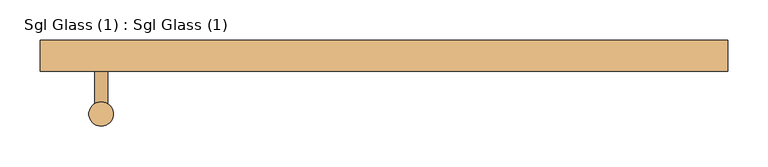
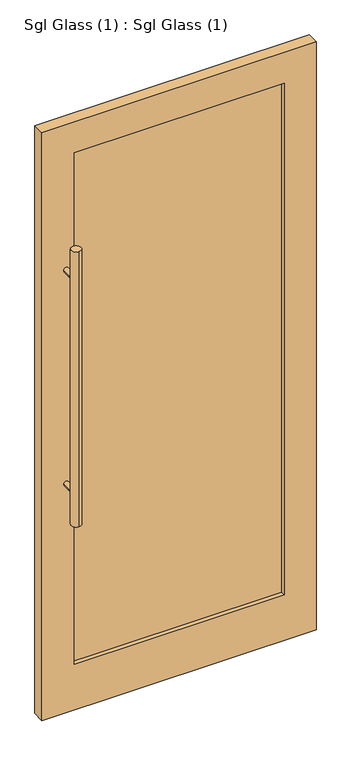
"""IFC4 building model written with IfcOpenShell, lengths in millimetres: door geometry, Sgl Glass (1) : Sgl Glass (1)."""

from ifc_helpers import new_model, si_unit, point, frame, frame_2d, origin, place, context, project, spatial, polyline, circle_curve, trimmed, segment, composite_curve, outline, extrude, source, transform, mapped, element, save


def sgl_glass_1_sgl_glass_1_0335e07f(model_context):
    return source(origin(), model_context, "Body", "SweptSolid", [
        extrude(outline(polyline([(324.9999999, -50.0), (-324.9999999, -50.0), (-324.9999999, -38.0), (324.9999999, -38.0), (324.9999999, -50.0)])), frame((0.0, 0.0, 150.0), z_axis=(0.0, 0.0, 1.0), x_axis=(1.0, 0.0, 0.0)), (0.0, 0.0, 1.0), 1675.0),
        extrude(outline(composite_curve([segment(trimmed(circle_curve(frame_2d((-349.9999999, -116.0)), 15.0), [point((-349.9999999, -101.0))], [point((-349.9999999, -131.0))], False, "CARTESIAN"), True, "CONTINUOUS"), segment(trimmed(circle_curve(frame_2d((-349.9999999, -116.0)), 15.0), [point((-349.9999999, -131.0))], [point((-349.9999999, -101.0))], False, "CARTESIAN"), True, "CONTINUOUS")], self_intersect=False)), frame((0.0, 0.0, 650.0), z_axis=(0.0, 0.0, 1.0), x_axis=(1.0, 0.0, 0.0)), (0.0, 0.0, 1.0), 900.0),
        extrude(outline(composite_curve([segment(trimmed(circle_curve(frame_2d((750.0, -349.9999999)), 8.0), [point((750.0, -341.9999999))], [point((750.0, -357.9999999))], False, "CARTESIAN"), True, "CONTINUOUS"), segment(trimmed(circle_curve(frame_2d((750.0, -349.9999999)), 8.0), [point((750.0, -357.9999999))], [point((750.0, -341.9999999))], False, "CARTESIAN"), True, "CONTINUOUS")], self_intersect=False)), frame((0.0, -116.0, 0.0), z_axis=(0.0, 1.0, 0.0), x_axis=(0.0, 0.0, 1.0)), (0.0, 0.0, 1.0), 53.0),
        extrude(outline(composite_curve([segment(trimmed(circle_curve(frame_2d((1450.0, -349.9999999)), 8.0), [point((1450.0, -341.9999999))], [point((1450.0, -357.9999999))], False, "CARTESIAN"), True, "CONTINUOUS"), segment(trimmed(circle_curve(frame_2d((1450.0, -349.9999999)), 8.0), [point((1450.0, -357.9999999))], [point((1450.0, -341.9999999))], False, "CARTESIAN"), True, "CONTINUOUS")], self_intersect=False)), frame((0.0, -116.0, 0.0), z_axis=(0.0, 1.0, 0.0), x_axis=(0.0, 0.0, 1.0)), (0.0, 0.0, 1.0), 53.0),
        extrude(outline(polyline([(0.0, -424.9999999), (0.0, 424.9999999), (1925.0, 424.9999999), (1925.0, -424.9999999), (0.0, -424.9999999)]), holes=[polyline([(1825.0, 324.9999999), (150.0, 324.9999999), (150.0, -324.9999999), (1825.0, -324.9999999), (1825.0, 324.9999999)])]), frame((0.0, -63.0, 0.0), z_axis=(0.0, 1.0, 0.0), x_axis=(0.0, 0.0, 1.0)), (0.0, 0.0, 1.0), 38.0),
    ])


if __name__ == "__main__":
    model = new_model("IFC4")
    model_context = context("Model", 3, world=origin())
    ifc_project = project(units=[si_unit("LENGTHUNIT", "METRE", prefix="MILLI")], contexts=[model_context])
    site = spatial("IfcSite", under=ifc_project)
    building = spatial("IfcBuilding", under=site)
    placement = place(None, origin())
    sgl_glass_1_sgl_glass_1_shape = sgl_glass_1_sgl_glass_1_0335e07f(model_context)
    element("IfcDoor", 1, ObjectType="Sgl Glass (1) : Sgl Glass (1)", at=placement, inside=building, context=model_context, shape_type="MappedRepresentation", body=[
        mapped(sgl_glass_1_sgl_glass_1_shape, transform((0.0, 0.0, 0.0), x_axis=(1.0, 0.0, 0.0), y_axis=(0.0, 1.0, 0.0), z_axis=(0.0, 0.0, 1.0))),
    ])
    save(model, "model.ifc")
